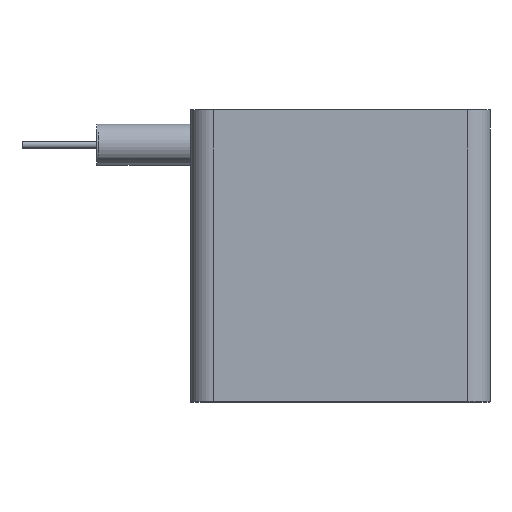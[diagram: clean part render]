
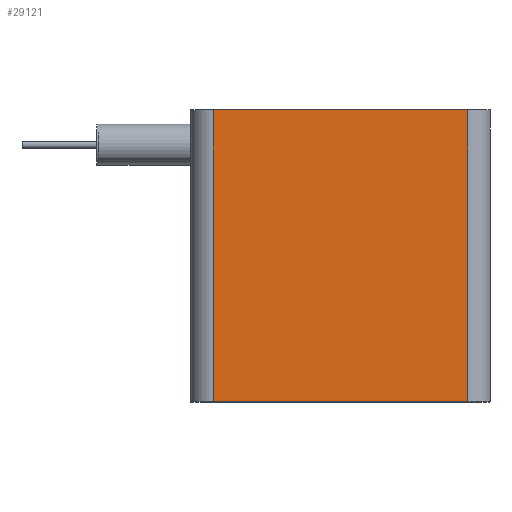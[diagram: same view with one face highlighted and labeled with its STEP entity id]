
A CAD part, top view. The second image highlights one B-rep face of the part: STEP entity #29121.
In plain terms, the highlighted planar face has unit normal (0, 0, 1).
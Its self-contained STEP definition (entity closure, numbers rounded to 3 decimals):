
#445 = VERTEX_POINT ( 'NONE', #63960 ) ;
#2850 = VERTEX_POINT ( 'NONE', #13563 ) ;
#5645 = PLANE ( 'NONE',  #31036 ) ;
#6353 = CARTESIAN_POINT ( 'NONE',  ( -10., 0., 25.25 ) ) ;
#7813 = LINE ( 'NONE', #29161, #60125 ) ;
#8972 = CARTESIAN_POINT ( 'NONE',  ( 24.5, 20.2, 25.25 ) ) ;
#10714 = ORIENTED_EDGE ( 'NONE', *, *, #19735, .T. ) ;
#11053 = EDGE_CURVE ( 'NONE', #62924, #445, #7813, .T. ) ;
#12341 = DIRECTION ( 'NONE',  ( 0., -1., 0. ) ) ;
#13563 = CARTESIAN_POINT ( 'NONE',  ( 24.5, -18.8, 25.25 ) ) ;
#13712 = DIRECTION ( 'NONE',  ( 0., 1., 0. ) ) ;
#13903 = VERTEX_POINT ( 'NONE', #8972 ) ;
#19231 = VECTOR ( 'NONE', #13712, 1000. ) ;
#19484 = CARTESIAN_POINT ( 'NONE',  ( -9.5, 20.2, 25.25 ) ) ;
#19735 = EDGE_CURVE ( 'NONE', #445, #2850, #45920, .T. ) ;
#21445 = ORIENTED_EDGE ( 'NONE', *, *, #11053, .T. ) ;
#22131 = FACE_OUTER_BOUND ( 'NONE', #61329, .T. ) ;
#23763 = DIRECTION ( 'NONE',  ( 1., 0., 0. ) ) ;
#24896 = DIRECTION ( 'NONE',  ( 1., 0., 0. ) ) ;
#25606 = LINE ( 'NONE', #41125, #34773 ) ;
#27003 = DIRECTION ( 'NONE',  ( 1., 0., 0. ) ) ;
#27715 = DIRECTION ( 'NONE',  ( 0., 0., 1. ) ) ;
#28749 = ORIENTED_EDGE ( 'NONE', *, *, #60128, .F. ) ;
#29121 = ADVANCED_FACE ( 'NONE', ( #22131 ), #5645, .T. ) ;
#29161 = CARTESIAN_POINT ( 'NONE',  ( -9.5, 0., 25.25 ) ) ;
#29683 = CARTESIAN_POINT ( 'NONE',  ( -10., -18.8, 25.25 ) ) ;
#31036 = AXIS2_PLACEMENT_3D ( 'NONE', #6353, #27715, #27003 ) ;
#33567 = EDGE_CURVE ( 'NONE', #2850, #13903, #50337, .T. ) ;
#34773 = VECTOR ( 'NONE', #24896, 1000. ) ;
#41125 = CARTESIAN_POINT ( 'NONE',  ( 0., 20.2, 25.25 ) ) ;
#44363 = CARTESIAN_POINT ( 'NONE',  ( 24.5, 0., 25.25 ) ) ;
#44976 = VECTOR ( 'NONE', #23763, 1000. ) ;
#45920 = LINE ( 'NONE', #29683, #44976 ) ;
#50337 = LINE ( 'NONE', #44363, #19231 ) ;
#58065 = ORIENTED_EDGE ( 'NONE', *, *, #33567, .T. ) ;
#60125 = VECTOR ( 'NONE', #12341, 1000. ) ;
#60128 = EDGE_CURVE ( 'NONE', #62924, #13903, #25606, .T. ) ;
#61329 = EDGE_LOOP ( 'NONE', ( #10714, #58065, #28749, #21445 ) ) ;
#62924 = VERTEX_POINT ( 'NONE', #19484 ) ;
#63960 = CARTESIAN_POINT ( 'NONE',  ( -9.5, -18.8, 25.25 ) ) ;
